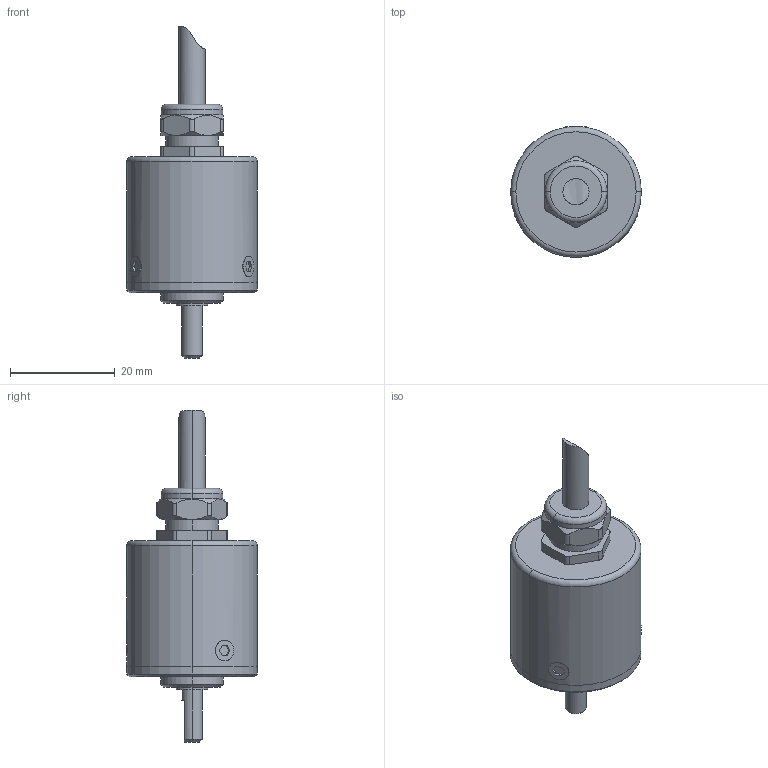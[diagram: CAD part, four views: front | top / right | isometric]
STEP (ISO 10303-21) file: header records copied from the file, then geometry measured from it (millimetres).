
FILE_DESCRIPTION(/* description */ (''),/* implementation_level */ '2;1');
FILE_NAME(/* name */ '00 编码器 IP54-BRT25-4mm轴 _尾出__step.stp',/* time_stamp */ '2024-04-22T18:48:28+08:00',/* author */ (''),/* organization */ (''),/* preprocessor_version */ 'ST-DEVELOPER v16.7',/* originating_system */ 'SIEMENS PLM Software NX 12.0',/* authorisation */ '');
FILE_SCHEMA (('AP203_CONFIGURATION_CONTROLLED_3D_DESIGN_OF_MECHANICAL_PARTS_AND_ASSEMBLIES_MIM_LF { 1 0 10303 403 2 1 2}'));
Length unit declared in the file: millimetre
Products named in the file (1): Li Y5970CF99cb8w
Bounding box: 25 x 25 x 63.5 mm (x, y, z)
Volume: 14389.8 mm3; surface area: 3920.9 mm2
Topology: 1 solids, 1 shells, 104 faces, 242 edges, 151 vertices
Faces by surface type: plane 46, cylinder 38, cone 15, torus 4, bspline 1
Entity records: 3387 total; most frequent: CARTESIAN_POINT 947, DIRECTION 481, ORIENTED_EDGE 476, EDGE_CURVE 238, AXIS2_PLACEMENT_3D 177, VERTEX_POINT 151, LINE 127, VECTOR 127
